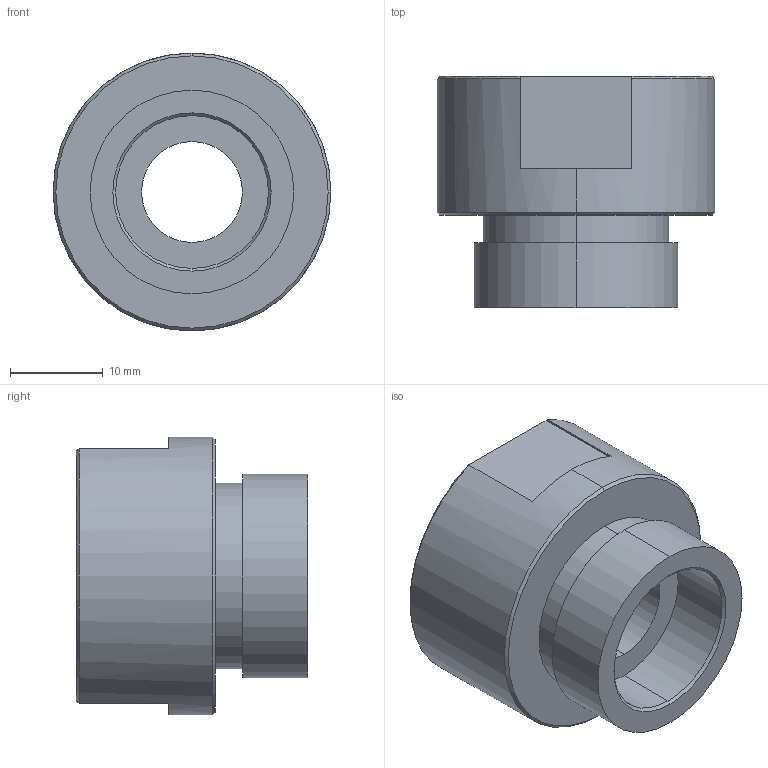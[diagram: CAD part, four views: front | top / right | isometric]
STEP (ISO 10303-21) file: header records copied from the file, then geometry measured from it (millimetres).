
FILE_DESCRIPTION (( 'STEP AP203' ), '1' );
FILE_NAME ('125MO-10.9.STEP', '2022-04-13T07:24:33', ( '' ), ( '' ), 'SwSTEP 2.0', 'SolidWorks 2015', '' );
FILE_SCHEMA (( 'CONFIG_CONTROL_DESIGN' ));
Length unit declared in the file: millimetre
Products named in the file (2): 125MO-10.9
Bounding box: 30 x 25 x 30 mm (x, y, z)
Volume: 10758.6 mm3; surface area: 4389.1 mm2
Topology: 1 solids, 1 shells, 29 faces, 68 edges, 44 vertices
Faces by surface type: plane 13, cylinder 10, cone 6
Entity records: 1007 total; most frequent: CARTESIAN_POINT 167, DIRECTION 152, ORIENTED_EDGE 136, EDGE_CURVE 68, AXIS2_PLACEMENT_3D 61, VERTEX_POINT 44, EDGE_LOOP 34, LINE 30
